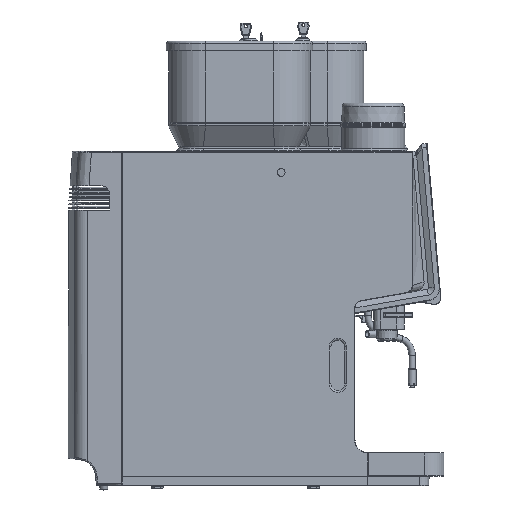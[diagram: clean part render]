
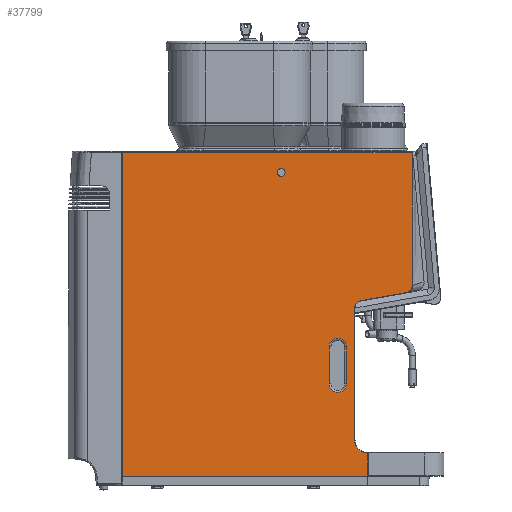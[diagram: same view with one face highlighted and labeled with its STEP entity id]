
A CAD part, left-side view. The second image highlights one B-rep face of the part: STEP entity #37799.
In plain terms, the highlighted planar face has unit normal (-1, 0, 0).
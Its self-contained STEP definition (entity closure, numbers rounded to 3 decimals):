
#1057=PLANE('',#40224);
#1956=FACE_BOUND('',#10913,.T.);
#1957=FACE_BOUND('',#10914,.T.);
#2228=LINE('',#56409,#5088);
#2243=LINE('',#56495,#5103);
#2296=LINE('',#56896,#5156);
#2298=LINE('',#56908,#5158);
#2302=LINE('',#57080,#5162);
#2307=LINE('',#57089,#5167);
#2308=LINE('',#57092,#5168);
#2309=LINE('',#57096,#5169);
#5088=VECTOR('',#44545,10.);
#5103=VECTOR('',#44608,10.);
#5156=VECTOR('',#44781,10.);
#5158=VECTOR('',#44795,10.);
#5162=VECTOR('',#44809,10.);
#5167=VECTOR('',#44816,10.);
#5168=VECTOR('',#44817,10.);
#5169=VECTOR('',#44820,10.);
#8646=FACE_OUTER_BOUND('',#10912,.T.);
#10912=EDGE_LOOP('',(#26200,#26201,#26202,#26203,#26204,#26205,#26206,#26207,
#26208,#26209));
#10913=EDGE_LOOP('',(#26210,#26211,#26212,#26213));
#10914=EDGE_LOOP('',(#26214));
#13295=B_SPLINE_CURVE_WITH_KNOTS('',3,(#56943,#56944,#56945,#56946,#56947,
#56948),.UNSPECIFIED.,.F.,.F.,(4,1,1,4),(-1.585,-1.132,
-0.679,0.),.UNSPECIFIED.);
#13297=B_SPLINE_CURVE_WITH_KNOTS('',3,(#56983,#56984,#56985,#56986,#56987),
 .UNSPECIFIED.,.F.,.F.,(4,1,4),(-20.858,-8.939,0.),
 .UNSPECIFIED.);
#14133=CIRCLE('',#40210,20.5);
#14136=CIRCLE('',#40215,10.6);
#14142=CIRCLE('',#40225,13.5);
#14143=CIRCLE('',#40226,13.5);
#14144=CIRCLE('',#40227,6.);
#16031=VERTEX_POINT('',#56406);
#16032=VERTEX_POINT('',#56408);
#16059=VERTEX_POINT('',#56493);
#16125=VERTEX_POINT('',#56884);
#16128=VERTEX_POINT('',#56889);
#16130=VERTEX_POINT('',#56894);
#16132=VERTEX_POINT('',#56900);
#16134=VERTEX_POINT('',#56906);
#16136=VERTEX_POINT('',#56941);
#16138=VERTEX_POINT('',#56981);
#16148=VERTEX_POINT('',#57090);
#16149=VERTEX_POINT('',#57091);
#16150=VERTEX_POINT('',#57093);
#16151=VERTEX_POINT('',#57095);
#16152=VERTEX_POINT('',#57098);
#19839=EDGE_CURVE('',#16032,#16031,#2228,.T.);
#19873=EDGE_CURVE('',#16031,#16059,#2243,.T.);
#19971=EDGE_CURVE('',#16128,#16125,#14133,.T.);
#19973=EDGE_CURVE('',#16130,#16128,#2296,.T.);
#19976=EDGE_CURVE('',#16132,#16130,#14136,.T.);
#19979=EDGE_CURVE('',#16134,#16132,#2298,.T.);
#19982=EDGE_CURVE('',#16136,#16134,#13295,.T.);
#19985=EDGE_CURVE('',#16138,#16136,#13297,.T.);
#19996=EDGE_CURVE('',#16059,#16125,#2302,.T.);
#20001=EDGE_CURVE('',#16032,#16138,#2307,.T.);
#20002=EDGE_CURVE('',#16148,#16149,#2308,.T.);
#20003=EDGE_CURVE('',#16150,#16148,#14142,.T.);
#20004=EDGE_CURVE('',#16151,#16150,#2309,.T.);
#20005=EDGE_CURVE('',#16149,#16151,#14143,.T.);
#20006=EDGE_CURVE('',#16152,#16152,#14144,.T.);
#26200=ORIENTED_EDGE('',*,*,#19971,.F.);
#26201=ORIENTED_EDGE('',*,*,#19973,.F.);
#26202=ORIENTED_EDGE('',*,*,#19976,.F.);
#26203=ORIENTED_EDGE('',*,*,#19979,.F.);
#26204=ORIENTED_EDGE('',*,*,#19982,.F.);
#26205=ORIENTED_EDGE('',*,*,#19985,.F.);
#26206=ORIENTED_EDGE('',*,*,#20001,.F.);
#26207=ORIENTED_EDGE('',*,*,#19839,.T.);
#26208=ORIENTED_EDGE('',*,*,#19873,.T.);
#26209=ORIENTED_EDGE('',*,*,#19996,.T.);
#26210=ORIENTED_EDGE('',*,*,#20002,.F.);
#26211=ORIENTED_EDGE('',*,*,#20003,.F.);
#26212=ORIENTED_EDGE('',*,*,#20004,.F.);
#26213=ORIENTED_EDGE('',*,*,#20005,.F.);
#26214=ORIENTED_EDGE('',*,*,#20006,.T.);
#37799=ADVANCED_FACE('',(#8646,#1956,#1957),#1057,.F.);
#40210=AXIS2_PLACEMENT_3D('',#56891,#44775,#44776);
#40215=AXIS2_PLACEMENT_3D('',#56902,#44787,#44788);
#40224=AXIS2_PLACEMENT_3D('',#57088,#44814,#44815);
#40225=AXIS2_PLACEMENT_3D('',#57094,#44818,#44819);
#40226=AXIS2_PLACEMENT_3D('',#57097,#44821,#44822);
#40227=AXIS2_PLACEMENT_3D('',#57099,#44823,#44824);
#44545=DIRECTION('',(0.,0.,-1.));
#44608=DIRECTION('',(0.,-1.,0.));
#44775=DIRECTION('center_axis',(-1.,0.,0.));
#44776=DIRECTION('ref_axis',(0.,0.707,-0.707));
#44781=DIRECTION('',(0.,0.,-1.));
#44787=DIRECTION('center_axis',(-1.,0.,0.));
#44788=DIRECTION('ref_axis',(0.,0.766,0.643));
#44795=DIRECTION('',(0.,0.985,-0.174));
#44809=DIRECTION('',(0.,0.,1.));
#44814=DIRECTION('center_axis',(1.,0.,0.));
#44815=DIRECTION('ref_axis',(0.,0.,-1.));
#44816=DIRECTION('',(0.,-1.,0.));
#44817=DIRECTION('',(0.,0.,-1.));
#44818=DIRECTION('center_axis',(-1.,0.,0.));
#44819=DIRECTION('ref_axis',(0.,0.,1.));
#44820=DIRECTION('',(0.,0.,1.));
#44821=DIRECTION('center_axis',(-1.,0.,0.));
#44822=DIRECTION('ref_axis',(0.,0.,-1.));
#44823=DIRECTION('center_axis',(1.,0.,0.));
#44824=DIRECTION('ref_axis',(0.,0.,-1.));
#56406=CARTESIAN_POINT('',(-162.5,505.,19.5));
#56408=CARTESIAN_POINT('',(-162.5,505.,527.5));
#56409=CARTESIAN_POINT('',(-162.5,505.,529.5));
#56493=CARTESIAN_POINT('',(-162.5,119.6,19.5));
#56495=CARTESIAN_POINT('',(-162.5,203.082,19.5));
#56884=CARTESIAN_POINT('',(-162.5,119.6,56.));
#56889=CARTESIAN_POINT('',(-162.5,140.1,76.5));
#56891=CARTESIAN_POINT('Origin',(-162.5,119.6,76.5));
#56894=CARTESIAN_POINT('',(-162.5,140.1,284.499));
#56896=CARTESIAN_POINT('',(-162.5,140.1,267.08));
#56900=CARTESIAN_POINT('',(-162.5,131.341,294.938));
#56902=CARTESIAN_POINT('Origin',(-162.5,129.5,284.499));
#56906=CARTESIAN_POINT('',(-162.5,58.942,307.704));
#56908=CARTESIAN_POINT('',(-162.5,165.239,288.961));
#56941=CARTESIAN_POINT('',(-162.5,49.607,318.922));
#56943=CARTESIAN_POINT('Ctrl Pts',(-162.5,49.607,318.922));
#56944=CARTESIAN_POINT('Ctrl Pts',(-162.5,49.606,317.412));
#56945=CARTESIAN_POINT('Ctrl Pts',(-162.5,50.207,314.396));
#56946=CARTESIAN_POINT('Ctrl Pts',(-162.5,53.212,309.918));
#56947=CARTESIAN_POINT('Ctrl Pts',(-162.5,56.712,308.097));
#56948=CARTESIAN_POINT('Ctrl Pts',(-162.5,58.942,307.704));
#56981=CARTESIAN_POINT('',(-162.5,49.847,527.5));
#56983=CARTESIAN_POINT('Ctrl Pts',(-162.5,49.847,527.5));
#56984=CARTESIAN_POINT('Ctrl Pts',(-162.5,49.78,487.771));
#56985=CARTESIAN_POINT('Ctrl Pts',(-162.5,49.684,418.245));
#56986=CARTESIAN_POINT('Ctrl Pts',(-162.5,49.634,348.719));
#56987=CARTESIAN_POINT('Ctrl Pts',(-162.5,49.607,318.922));
#57080=CARTESIAN_POINT('',(-162.5,119.6,157.982));
#57088=CARTESIAN_POINT('Origin',(-162.5,286.564,259.464));
#57089=CARTESIAN_POINT('',(-162.5,438.282,527.5));
#57090=CARTESIAN_POINT('',(-162.5,180.1,222.45));
#57091=CARTESIAN_POINT('',(-162.5,180.1,164.45));
#57092=CARTESIAN_POINT('',(-162.5,180.1,211.957));
#57093=CARTESIAN_POINT('',(-162.5,153.1,222.45));
#57094=CARTESIAN_POINT('Origin',(-162.5,166.6,222.45));
#57095=CARTESIAN_POINT('',(-162.5,153.1,164.45));
#57096=CARTESIAN_POINT('',(-162.5,153.1,240.957));
#57097=CARTESIAN_POINT('Origin',(-162.5,166.6,164.45));
#57098=CARTESIAN_POINT('',(-162.5,255.45,502.45));
#57099=CARTESIAN_POINT('Origin',(-162.5,255.45,496.45));
